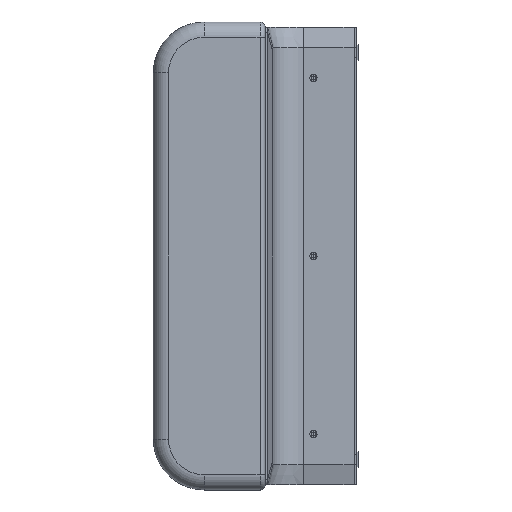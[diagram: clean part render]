
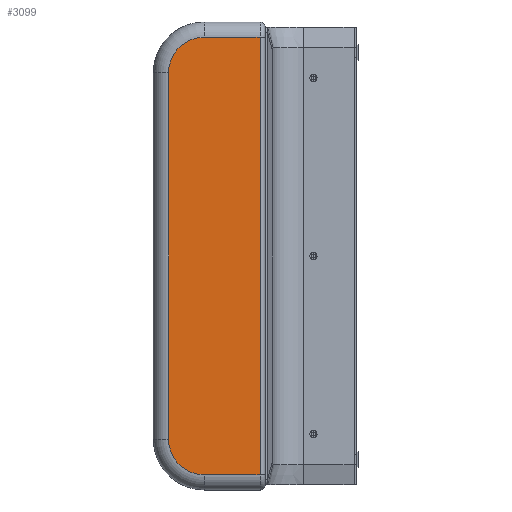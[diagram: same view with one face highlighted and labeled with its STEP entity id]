
A CAD part, left-side view. The second image highlights one B-rep face of the part: STEP entity #3099.
In plain terms, the highlighted planar face has unit normal (-1, 0, 0).
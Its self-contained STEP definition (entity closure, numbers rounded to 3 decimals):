
#86 = AXIS2_PLACEMENT_3D ( 'NONE', #1350, #3412, #1702 ) ;
#144 = EDGE_LOOP ( 'NONE', ( #1556, #6241, #3792, #2349, #3594, #3690 ) ) ;
#204 = LINE ( 'NONE', #4243, #3025 ) ;
#248 = EDGE_CURVE ( 'NONE', #7040, #6716, #277, .T. ) ;
#251 = CARTESIAN_POINT ( 'NONE',  ( -540., 120., -810. ) ) ;
#277 = LINE ( 'NONE', #1470, #812 ) ;
#325 = DIRECTION ( 'NONE',  ( 0., 0., -1. ) ) ;
#812 = VECTOR ( 'NONE', #3260, 1000. ) ;
#1030 = CARTESIAN_POINT ( 'NONE',  ( -540., 10., -20. ) ) ;
#1176 = VERTEX_POINT ( 'NONE', #3314 ) ;
#1350 = CARTESIAN_POINT ( 'NONE',  ( -540., 220., 10. ) ) ;
#1470 = CARTESIAN_POINT ( 'NONE',  ( -540., 220., -880. ) ) ;
#1556 = ORIENTED_EDGE ( 'NONE', *, *, #248, .T. ) ;
#1702 = DIRECTION ( 'NONE',  ( 0., 0., -1. ) ) ;
#1877 = VECTOR ( 'NONE', #6181, 1000. ) ;
#2154 = CARTESIAN_POINT ( 'NONE',  ( -540., 220., -20. ) ) ;
#2249 = LINE ( 'NONE', #1030, #1877 ) ;
#2349 = ORIENTED_EDGE ( 'NONE', *, *, #2691, .T. ) ;
#2390 = EDGE_CURVE ( 'NONE', #4107, #1176, #2718, .T. ) ;
#2691 = EDGE_CURVE ( 'NONE', #1176, #5459, #6548, .T. ) ;
#2718 = LINE ( 'NONE', #2154, #6202 ) ;
#2786 = EDGE_CURVE ( 'NONE', #2813, #7040, #4032, .T. ) ;
#2813 = VERTEX_POINT ( 'NONE', #3071 ) ;
#2851 = PLANE ( 'NONE',  #86 ) ;
#2964 = DIRECTION ( 'NONE',  ( 0., 0., -1. ) ) ;
#3025 = VECTOR ( 'NONE', #4818, 1000. ) ;
#3061 = AXIS2_PLACEMENT_3D ( 'NONE', #6372, #5841, #2964 ) ;
#3071 = CARTESIAN_POINT ( 'NONE',  ( -540., 190., -810. ) ) ;
#3093 = FACE_OUTER_BOUND ( 'NONE', #144, .T. ) ;
#3099 = ADVANCED_FACE ( 'NONE', ( #3093 ), #2851, .F. ) ;
#3260 = DIRECTION ( 'NONE',  ( 0., -1., 0. ) ) ;
#3314 = CARTESIAN_POINT ( 'NONE',  ( -540., 120., -20. ) ) ;
#3412 = DIRECTION ( 'NONE',  ( 1., 0., 0. ) ) ;
#3594 = ORIENTED_EDGE ( 'NONE', *, *, #4568, .T. ) ;
#3690 = ORIENTED_EDGE ( 'NONE', *, *, #2786, .T. ) ;
#3722 = DIRECTION ( 'NONE',  ( -1., 0., 0. ) ) ;
#3792 = ORIENTED_EDGE ( 'NONE', *, *, #2390, .T. ) ;
#4032 = CIRCLE ( 'NONE', #5009, 70. ) ;
#4107 = VERTEX_POINT ( 'NONE', #4329 ) ;
#4243 = CARTESIAN_POINT ( 'NONE',  ( -540., 190., 10. ) ) ;
#4329 = CARTESIAN_POINT ( 'NONE',  ( -540., 10., -20. ) ) ;
#4568 = EDGE_CURVE ( 'NONE', #5459, #2813, #204, .T. ) ;
#4818 = DIRECTION ( 'NONE',  ( 0., 0., -1. ) ) ;
#4851 = CARTESIAN_POINT ( 'NONE',  ( -540., 120., -880. ) ) ;
#5009 = AXIS2_PLACEMENT_3D ( 'NONE', #251, #3722, #325 ) ;
#5110 = EDGE_CURVE ( 'NONE', #6716, #4107, #2249, .T. ) ;
#5459 = VERTEX_POINT ( 'NONE', #5678 ) ;
#5678 = CARTESIAN_POINT ( 'NONE',  ( -540., 190., -90. ) ) ;
#5841 = DIRECTION ( 'NONE',  ( -1., 0., 0. ) ) ;
#6181 = DIRECTION ( 'NONE',  ( 0., 0., 1. ) ) ;
#6202 = VECTOR ( 'NONE', #6267, 1000. ) ;
#6241 = ORIENTED_EDGE ( 'NONE', *, *, #5110, .T. ) ;
#6267 = DIRECTION ( 'NONE',  ( 0., 1., 0. ) ) ;
#6372 = CARTESIAN_POINT ( 'NONE',  ( -540., 120., -90. ) ) ;
#6548 = CIRCLE ( 'NONE', #3061, 70. ) ;
#6716 = VERTEX_POINT ( 'NONE', #6771 ) ;
#6771 = CARTESIAN_POINT ( 'NONE',  ( -540., 10., -880. ) ) ;
#7040 = VERTEX_POINT ( 'NONE', #4851 ) ;
